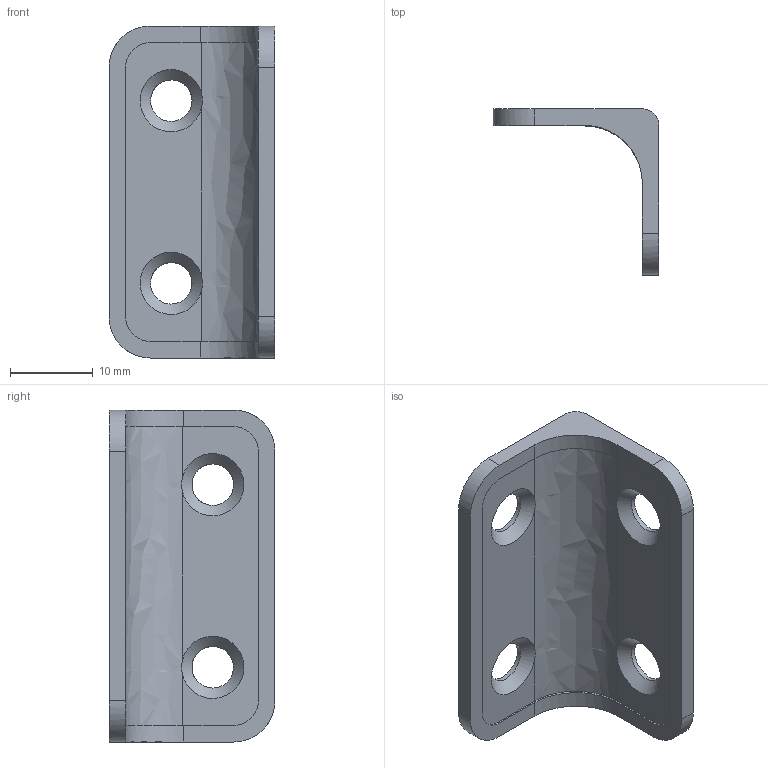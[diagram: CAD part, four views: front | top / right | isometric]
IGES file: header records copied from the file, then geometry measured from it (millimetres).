
Global section: file name: DR_S-AGC4020-20; native system: Autodesk Inventor 2015; preprocessor: unknown; author: user; date: 20171013.083904; units: millimetre
Bounding box: 20 x 20 x 40 mm (x, y, z)
Volume: 2954.4 mm3; surface area: 3115.5 mm2
Topology: 1 solids, 1 shells, 34 faces, 108 edges, 72 vertices
Faces by surface type: bspline 34
